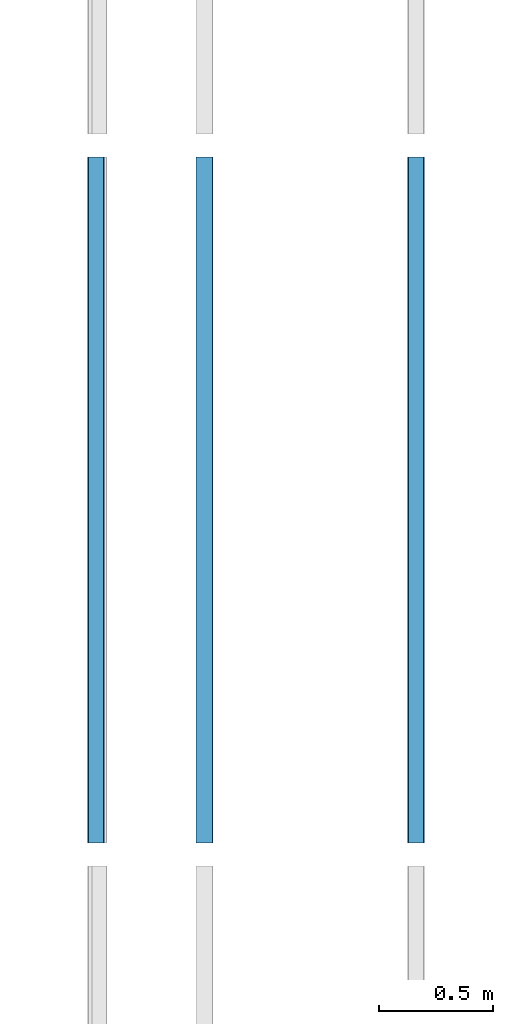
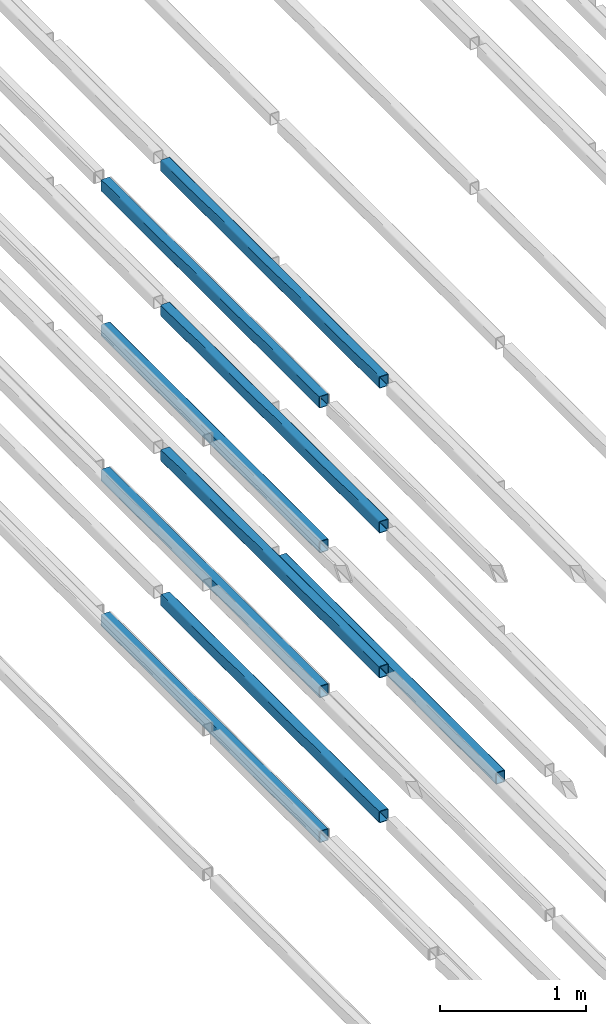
# One storey, part 47 of 290: 9 beams.
"""IFC2X3 building model written with IfcOpenShell, lengths in metres."""

import ifcopenshell
import ifcopenshell.guid

model = None  # the IFC model being written
_history = None  # IfcOwnerHistory: only IFC2X3 demands one
_inside = {}  # id of a spatial element -> (the spatial element, [elements in it])
_under = {}  # id of a project, library or spatial element -> (it, [spatial elements below it])
_declared = {}  # id of a project -> (the project, [libraries it declares])
_typed = {}  # id of a type object -> (the type object, [elements of that type])
_made_of = {}  # id of a material, layer set ... -> (it, [elements and type objects made of it])


def new_model(schema):
    """Start an empty IFC model of exactly this schema.

    Asked for "IFC4X3", IfcOpenShell would pick the latest addendum, in which some entities
    have other attributes; the version numbers below select the first issue.
    IFC2X3 requires an IfcOwnerHistory on every rooted entity: one is made here for all.
    """
    global model, _history
    if schema == "IFC4X3":
        model = ifcopenshell.file(schema_version=(4, 3, 0, 0))
    else:
        model = ifcopenshell.file(schema=schema)
    _inside.clear()
    _under.clear()
    _declared.clear()
    _typed.clear()
    _made_of.clear()
    _history = None
    if model.schema == "IFC2X3":
        org = make("IfcOrganization", Name="unknown")
        user = make(
            "IfcPersonAndOrganization",
            ThePerson=make("IfcPerson", FamilyName="unknown"),
            TheOrganization=org,
        )
        app = make(
            "IfcApplication",
            ApplicationDeveloper=org,
            Version="unknown",
            ApplicationFullName="unknown",
            ApplicationIdentifier="unknown",
        )
        _history = make(
            "IfcOwnerHistory",
            OwningUser=user,
            OwningApplication=app,
            ChangeAction="ADDED",
            CreationDate=0,
        )
    return model


def make(cls, **values):
    """One entity of the class cls with the attributes given. An attribute that is None is left unset."""
    return model.create_entity(
        cls, **{name: value for name, value in values.items() if value is not None}
    )


def entity(cls, *values):
    """Any entity or typed value of the class cls, its attributes in the order of the schema. None: left unset."""
    e = model.create_entity(cls)
    for i, value in enumerate(values):
        if value is not None:
            e[i] = value
    return e


def rooted(cls, **values):
    """An entity with a GlobalId (a new one), such as an element, a storey or a relation."""
    return make(cls, GlobalId=ifcopenshell.guid.new(), OwnerHistory=_history, **values)


def si_unit(unit_type, name, prefix=None):
    """IfcSIUnit, for example si_unit("LENGTHUNIT", "METRE", prefix="MILLI")."""
    return make("IfcSIUnit", UnitType=unit_type, Prefix=prefix, Name=name)


def converted_unit(unit_type, name, factor, base, dimensions=None, offset=None):
    """IfcConversionBasedUnit, such as the inch: factor (a typed value) times the base unit."""
    return make(
        "IfcConversionBasedUnit"
        if offset is None
        else "IfcConversionBasedUnitWithOffset",
        ConversionOffset=offset,
        Dimensions=None
        if dimensions is None
        else entity("IfcDimensionalExponents", *dimensions),
        UnitType=unit_type,
        Name=name,
        ConversionFactor=make(
            "IfcMeasureWithUnit", ValueComponent=factor, UnitComponent=base
        ),
    )


def derived_unit(unit_type, elements):
    """IfcDerivedUnit: a product of units, each with its exponent."""
    return make(
        "IfcDerivedUnit",
        Elements=[
            make("IfcDerivedUnitElement", Unit=unit, Exponent=power)
            for unit, power in elements
        ],
        UnitType=unit_type,
    )


def assignment(units):
    """IfcUnitAssignment: the units of a project."""
    return None if units is None else make("IfcUnitAssignment", Units=units)


def point(xyz):
    """IfcCartesianPoint."""
    return None if xyz is None else make("IfcCartesianPoint", Coordinates=xyz)


def direction(xyz):
    """IfcDirection."""
    return None if xyz is None else make("IfcDirection", DirectionRatios=xyz)


def frame(location, z_axis=None, x_axis=None):
    """IfcAxis2Placement3D, a coordinate frame: its origin and axes. An axis left out is left unset."""
    return make(
        "IfcAxis2Placement3D",
        Location=point(location),
        Axis=direction(z_axis),
        RefDirection=direction(x_axis),
    )


def frame_2d(location, x_axis=None):
    """IfcAxis2Placement2D, a coordinate frame in the plane: its origin and x axis."""
    return make(
        "IfcAxis2Placement2D", Location=point(location), RefDirection=direction(x_axis)
    )


def origin():
    """The frame at (0, 0, 0) with its axes left unset."""
    return frame((0.0, 0.0, 0.0))


def place(relative_to, where):
    """IfcLocalPlacement: puts the frame where relative to a parent placement (None: the world)."""
    return make(
        "IfcLocalPlacement", PlacementRelTo=relative_to, RelativePlacement=where
    )


def context(
    kind, dimensions, precision=None, world=None, true_north=None, identifier=None
):
    """IfcGeometricRepresentationContext, for example the 3D "Model" context."""
    return make(
        "IfcGeometricRepresentationContext",
        ContextIdentifier=identifier,
        ContextType=kind,
        CoordinateSpaceDimension=dimensions,
        Precision=precision,
        WorldCoordinateSystem=world,
        TrueNorth=true_north,
    )


def subcontext(parent, identifier, kind, view, scale=None):
    """IfcGeometricRepresentationSubContext, for example "Body" below "Model"."""
    return make(
        "IfcGeometricRepresentationSubContext",
        ContextIdentifier=identifier,
        ContextType=kind,
        ParentContext=parent,
        TargetScale=scale,
        TargetView=view,
    )


def project(units=None, contexts=None):
    """IfcProject with its units and contexts."""
    return rooted(
        "IfcProject",
        Name="project",
        RepresentationContexts=contexts,
        UnitsInContext=assignment(units),
    )


def spatial(cls, under=None, at=None, **own):
    """A site, building, storey or space (cls), placed at a placement, below another one or the project."""
    s = rooted(cls, ObjectPlacement=at, **own)
    if under is not None:
        _under.setdefault(under.id(), (under, []))[1].append(s)
    return s


def polyline(points):
    """IfcPolyline through the points."""
    return make("IfcPolyline", Points=[point(p) for p in points])


def circle_curve(where, radius):
    """IfcCircle in the frame where."""
    return make("IfcCircle", Position=where, Radius=radius)


def parameter(value):
    """IfcParameterValue: where a trimmed curve begins or ends, as a parameter of its basis curve."""
    return model.create_entity("IfcParameterValue", value)


def trimmed(basis, trim1, trim2, sense, master):
    """IfcTrimmedCurve: the piece of a basis curve between two trims."""
    return make(
        "IfcTrimmedCurve",
        BasisCurve=basis,
        Trim1=trim1,
        Trim2=trim2,
        SenseAgreement=sense,
        MasterRepresentation=master,
    )


def segment(curve, same_sense, transition):
    """IfcCompositeCurveSegment."""
    return make(
        "IfcCompositeCurveSegment",
        Transition=transition,
        SameSense=same_sense,
        ParentCurve=curve,
    )


def composite_curve(segments, self_intersect=None):
    """IfcCompositeCurve: segments joined end to end."""
    return make("IfcCompositeCurve", Segments=segments, SelfIntersect=self_intersect)


def outline(outer, holes=None, kind="AREA"):
    """IfcArbitraryClosedProfileDef: a profile drawn as a closed curve; with holes, ...WithVoids."""
    if holes is None:
        return make("IfcArbitraryClosedProfileDef", ProfileType=kind, OuterCurve=outer)
    return make(
        "IfcArbitraryProfileDefWithVoids",
        ProfileType=kind,
        OuterCurve=outer,
        InnerCurves=holes,
    )


def extrude(swept, where, along, depth):
    """IfcExtrudedAreaSolid: the profile swept, set in the frame where, extruded along a direction by depth."""
    return make(
        "IfcExtrudedAreaSolid",
        SweptArea=swept,
        Position=where,
        ExtrudedDirection=direction(along),
        Depth=depth,
    )


def shape(context_of_items, identifier, shape_type, items):
    """IfcShapeRepresentation: the items that make up one representation, for example the "Body"."""
    return make(
        "IfcShapeRepresentation",
        ContextOfItems=context_of_items,
        RepresentationIdentifier=identifier,
        RepresentationType=shape_type,
        Items=items,
    )


def material(Name=None, Category=None):
    """IfcMaterial."""
    return make("IfcMaterial", Name=Name, Category=Category)


def made_of(thing, what):
    """Note that an element or type object is made of a material, layer set ...; save() writes the relation."""
    if what is not None:
        _made_of.setdefault(what.id(), (what, []))[1].append(thing)
    return thing


def type_object(cls, material=None, **own):
    """A type object (cls), such as IfcWallType, which elements share."""
    return made_of(rooted(cls, **own), material)


def element(
    cls,
    number,
    at=None,
    inside=None,
    cuts=None,
    type_object=None,
    material=None,
    context=None,
    identifier="Body",
    shape_type=None,
    held_by="IfcProductDefinitionShape",
    body=None,
    shapes=None,
    **own,
):
    """One element of the class cls, such as IfcWall. Its Tag is "e" and its number.

    at: its placement. inside: the storey or other place that contains it. cuts: it is an
    opening in that element (IfcRelVoidsElement). A single representation is given by context,
    identifier, shape_type and body (its items); several are given by shapes. held_by: the class
    of the entity that holds the representations. save() writes the other relations.
    """
    e = rooted(cls, Tag="e%d" % number, ObjectPlacement=at, **own)
    if body is not None:
        shapes = [shape(context, identifier, shape_type, body)]
    if shapes is not None:
        e.Representation = make(held_by, Representations=shapes)
    if inside is not None:
        _inside.setdefault(inside.id(), (inside, []))[1].append(e)
    if cuts is not None:
        rooted(
            "IfcRelVoidsElement", RelatingBuildingElement=cuts, RelatedOpeningElement=e
        )
    if type_object is not None:
        _typed.setdefault(type_object.id(), (type_object, []))[1].append(e)
    return made_of(e, material)


def aggregate(whole, parts):
    """IfcRelAggregates: a whole, such as a stair, and the parts it consists of."""
    return rooted("IfcRelAggregates", RelatingObject=whole, RelatedObjects=parts)


def save(model, path):
    """Write the relations noted so far, then the file.

    IfcRelAggregates (storeys below a building ...), IfcRelContainedInSpatialStructure (elements
    in a storey), IfcRelDefinesByType, IfcRelAssociatesMaterial and IfcRelDeclares: one each for
    every whole, place, type object, material and project.
    """
    for whole, parts in _under.values():
        aggregate(whole, parts)
    for where, things in _inside.values():
        rooted(
            "IfcRelContainedInSpatialStructure",
            RelatedElements=things,
            RelatingStructure=where,
        )
    for kind, things in _typed.values():
        rooted("IfcRelDefinesByType", RelatedObjects=things, RelatingType=kind)
    for what, things in _made_of.values():
        rooted("IfcRelAssociatesMaterial", RelatedObjects=things, RelatingMaterial=what)
    for by, libraries in _declared.values():
        rooted("IfcRelDeclares", RelatingContext=by, RelatedDefinitions=libraries)
    model.write(path)


model = new_model("IFC2X3")

# Units and contexts
model_context = context("Model", 3, precision=1e-05, world=origin(), true_north=direction((6.12303176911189e-17, 1.0)))
body_context = subcontext(model_context, "Body", "Model", "MODEL_VIEW")
ifc_project = project(units=[si_unit("LENGTHUNIT", "METRE"), si_unit("AREAUNIT", "SQUARE_METRE"), si_unit("VOLUMEUNIT", "CUBIC_METRE"), converted_unit("PLANEANGLEUNIT", "DEGREE", entity("IfcRatioMeasure", 0.0174532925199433), si_unit("PLANEANGLEUNIT", "RADIAN"), dimensions=[0, 0, 0, 0, 0, 0, 0]), si_unit("MASSUNIT", "GRAM", prefix="KILO"), derived_unit("MASSDENSITYUNIT", [(si_unit("MASSUNIT", "GRAM", prefix="KILO"), 1), (si_unit("LENGTHUNIT", "METRE"), -3)]), derived_unit("MOMENTOFINERTIAUNIT", [(si_unit("LENGTHUNIT", "METRE"), 4)]), si_unit("TIMEUNIT", "SECOND"), si_unit("FREQUENCYUNIT", "HERTZ"), si_unit("THERMODYNAMICTEMPERATUREUNIT", "DEGREE_CELSIUS"), derived_unit("THERMALTRANSMITTANCEUNIT", [(si_unit("MASSUNIT", "GRAM", prefix="KILO"), 1), (si_unit("THERMODYNAMICTEMPERATUREUNIT", "KELVIN"), -1), (si_unit("TIMEUNIT", "SECOND"), -3)]), derived_unit("VOLUMETRICFLOWRATEUNIT", [(si_unit("LENGTHUNIT", "METRE"), 3), (si_unit("TIMEUNIT", "SECOND"), -1)]), si_unit("ELECTRICCURRENTUNIT", "AMPERE"), si_unit("ELECTRICVOLTAGEUNIT", "VOLT"), si_unit("POWERUNIT", "WATT"), si_unit("FORCEUNIT", "NEWTON", prefix="KILO"), si_unit("ILLUMINANCEUNIT", "LUX"), si_unit("LUMINOUSFLUXUNIT", "LUMEN"), si_unit("LUMINOUSINTENSITYUNIT", "CANDELA"), derived_unit("USERDEFINED", [(si_unit("MASSUNIT", "GRAM", prefix="KILO"), -1), (si_unit("LENGTHUNIT", "METRE"), -2), (si_unit("TIMEUNIT", "SECOND"), 3), (si_unit("LUMINOUSFLUXUNIT", "LUMEN"), 1)]), derived_unit("LINEARVELOCITYUNIT", [(si_unit("LENGTHUNIT", "METRE"), 1), (si_unit("TIMEUNIT", "SECOND"), -1)]), si_unit("PRESSUREUNIT", "PASCAL"), derived_unit("USERDEFINED", [(si_unit("LENGTHUNIT", "METRE"), -2), (si_unit("MASSUNIT", "GRAM", prefix="KILO"), 1), (si_unit("TIMEUNIT", "SECOND"), -2)]), derived_unit("LINEARFORCEUNIT", [(si_unit("MASSUNIT", "GRAM", prefix="KILO"), 1), (si_unit("LENGTHUNIT", "METRE"), 1), (si_unit("TIMEUNIT", "SECOND"), -2), (si_unit("LENGTHUNIT", "METRE"), -1)]), derived_unit("PLANARFORCEUNIT", [(si_unit("MASSUNIT", "GRAM", prefix="KILO"), 1), (si_unit("LENGTHUNIT", "METRE"), 1), (si_unit("TIMEUNIT", "SECOND"), -2), (si_unit("LENGTHUNIT", "METRE"), -2)])], contexts=[model_context])

# Site, building, storey
site_placement = place(None, origin())
site = spatial("IfcSite", under=ifc_project, at=site_placement, Name="Default", CompositionType="ELEMENT")
building_placement = place(site_placement, origin())
building = spatial("IfcBuilding", under=site, at=building_placement, CompositionType="ELEMENT")
storey_placement = place(building_placement, frame((0.0, 0.0, 4.0)))
storey = spatial("IfcBuildingStorey", under=building, at=storey_placement, Name="01_OG", CompositionType="ELEMENT", Elevation=4.0)

# Beams
ifc_material = material(Name="Metall - Baustahl S235 blau")
beam_type = type_object("IfcBeamType", Name="RHS Träger (EN 10219-2):RHS 100 x 75 x 5", PredefinedType="NOTDEFINED")
beam_1_placement = place(storey_placement, frame((-200.715111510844, 36.448088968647, -1.2), z_axis=(0.0, 0.0, 1.0), x_axis=(0.0, 1.0, 0.0)))
element("IfcBeam", 1, at=beam_1_placement, inside=storey, type_object=beam_type, material=ifc_material, Name="RHS Träger (EN 10219-2):RHS 100 x 75 x 5", ObjectType="RHS Träger (EN 10219-2):RHS 100 x 75 x 5", context=body_context, shape_type="SweptSolid", body=[
    extrude(outline(composite_curve([segment(trimmed(circle_curve(frame_2d((-0.0274999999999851, -0.0400000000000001), x_axis=(1.0, 0.0)), 0.01), [parameter(180.0)], [parameter(270.0)], True, "PARAMETER"), True, "CONTINUOUS"), segment(polyline([(-0.0274999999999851, -0.05), (0.0274999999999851, -0.05)]), True, "CONTINUOUS"), segment(trimmed(circle_curve(frame_2d((0.0274999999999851, -0.0400000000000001), x_axis=(1.0, 0.0)), 0.01), [parameter(270.0)], [parameter(5.08888749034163e-14)], True, "PARAMETER"), True, "CONTINUOUS"), segment(polyline([(0.0375000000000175, -0.0400000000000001), (0.0375000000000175, 0.0400000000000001)]), True, "CONTINUOUS"), segment(trimmed(circle_curve(frame_2d((0.0274999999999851, 0.0400000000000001), x_axis=(1.0, 0.0)), 0.01), [parameter(360.0)], [parameter(89.9999999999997)], True, "PARAMETER"), True, "CONTINUOUS"), segment(polyline([(0.0274999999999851, 0.05), (-0.0274999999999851, 0.05)]), True, "CONTINUOUS"), segment(trimmed(circle_curve(frame_2d((-0.0274999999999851, 0.0400000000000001), x_axis=(1.0, 0.0)), 0.01), [parameter(90.0000000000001)], [parameter(180.0)], True, "PARAMETER"), True, "CONTINUOUS"), segment(polyline([(-0.0374999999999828, 0.0400000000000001), (-0.0374999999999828, -0.0400000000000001)]), True, "CONTINUOUS")], self_intersect=False), holes=[composite_curve([segment(polyline([(0.0274999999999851, -0.0450000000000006), (-0.0274999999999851, -0.0450000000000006)]), True, "CONTINUOUS"), segment(trimmed(circle_curve(frame_2d((-0.0274999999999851, -0.0400000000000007), x_axis=(1.0, 0.0)), 0.005), [parameter(180.0)], [parameter(270.0)], True, "PARAMETER"), False, "CONTINUOUS"), segment(polyline([(-0.0325000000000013, -0.0400000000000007), (-0.0325000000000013, 0.039999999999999)]), True, "CONTINUOUS"), segment(trimmed(circle_curve(frame_2d((-0.0274999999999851, 0.039999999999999), x_axis=(1.0, 0.0)), 0.005), [parameter(90.0000000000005)], [parameter(180.0)], True, "PARAMETER"), False, "CONTINUOUS"), segment(polyline([(-0.0274999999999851, 0.044999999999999), (0.0274999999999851, 0.044999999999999)]), True, "CONTINUOUS"), segment(trimmed(circle_curve(frame_2d((0.0274999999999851, 0.039999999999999), x_axis=(1.0, 0.0)), 0.005), [parameter(0.0)], [parameter(90.0000000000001)], True, "PARAMETER"), False, "CONTINUOUS"), segment(polyline([(0.0325000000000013, 0.039999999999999), (0.0325000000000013, -0.0400000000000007)]), True, "CONTINUOUS"), segment(trimmed(circle_curve(frame_2d((0.0274999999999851, -0.0400000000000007), x_axis=(1.0, 0.0)), 0.005), [parameter(270.0)], [parameter(4.07110999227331e-13)], True, "PARAMETER"), False, "CONTINUOUS")], self_intersect=False)]), frame((9.99999999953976e-05, 0.0375000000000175, -0.0500000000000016), z_axis=(1.0, 0.0, 0.0), x_axis=(0.0, -1.0, 0.0)), (0.0, 0.0, 1.0), 2.9998),
])
beam_2_placement = place(storey_placement, frame((-200.715111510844, 36.448088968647, 0.0150000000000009), z_axis=(0.0, 0.0, 1.0), x_axis=(0.0, 1.0, 0.0)))
element("IfcBeam", 2, at=beam_2_placement, inside=storey, type_object=beam_type, material=ifc_material, Name="RHS Träger (EN 10219-2):RHS 100 x 75 x 5", ObjectType="RHS Träger (EN 10219-2):RHS 100 x 75 x 5", context=body_context, shape_type="SweptSolid", body=[
    extrude(outline(composite_curve([segment(trimmed(circle_curve(frame_2d((-0.0274999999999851, -0.0400000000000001), x_axis=(1.0, 0.0)), 0.01), [parameter(180.0)], [parameter(270.0)], True, "PARAMETER"), True, "CONTINUOUS"), segment(polyline([(-0.0274999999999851, -0.05), (0.0274999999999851, -0.05)]), True, "CONTINUOUS"), segment(trimmed(circle_curve(frame_2d((0.0274999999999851, -0.0400000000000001), x_axis=(1.0, 0.0)), 0.01), [parameter(270.0)], [parameter(5.08888749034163e-14)], True, "PARAMETER"), True, "CONTINUOUS"), segment(polyline([(0.0375000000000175, -0.0400000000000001), (0.0375000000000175, 0.0400000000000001)]), True, "CONTINUOUS"), segment(trimmed(circle_curve(frame_2d((0.0274999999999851, 0.0400000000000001), x_axis=(1.0, 0.0)), 0.01), [parameter(360.0)], [parameter(89.9999999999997)], True, "PARAMETER"), True, "CONTINUOUS"), segment(polyline([(0.0274999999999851, 0.05), (-0.0274999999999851, 0.05)]), True, "CONTINUOUS"), segment(trimmed(circle_curve(frame_2d((-0.0274999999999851, 0.0400000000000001), x_axis=(1.0, 0.0)), 0.01), [parameter(90.0000000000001)], [parameter(180.0)], True, "PARAMETER"), True, "CONTINUOUS"), segment(polyline([(-0.0374999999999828, 0.0400000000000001), (-0.0374999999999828, -0.0400000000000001)]), True, "CONTINUOUS")], self_intersect=False), holes=[composite_curve([segment(polyline([(0.0274999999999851, -0.0450000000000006), (-0.0274999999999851, -0.0450000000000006)]), True, "CONTINUOUS"), segment(trimmed(circle_curve(frame_2d((-0.0274999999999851, -0.0400000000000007), x_axis=(1.0, 0.0)), 0.005), [parameter(180.0)], [parameter(270.0)], True, "PARAMETER"), False, "CONTINUOUS"), segment(polyline([(-0.0325000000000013, -0.0400000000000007), (-0.0325000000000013, 0.039999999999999)]), True, "CONTINUOUS"), segment(trimmed(circle_curve(frame_2d((-0.0274999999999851, 0.039999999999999), x_axis=(1.0, 0.0)), 0.005), [parameter(90.0000000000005)], [parameter(180.0)], True, "PARAMETER"), False, "CONTINUOUS"), segment(polyline([(-0.0274999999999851, 0.044999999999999), (0.0274999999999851, 0.044999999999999)]), True, "CONTINUOUS"), segment(trimmed(circle_curve(frame_2d((0.0274999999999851, 0.039999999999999), x_axis=(1.0, 0.0)), 0.005), [parameter(0.0)], [parameter(90.0000000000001)], True, "PARAMETER"), False, "CONTINUOUS"), segment(polyline([(0.0325000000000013, 0.039999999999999), (0.0325000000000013, -0.0400000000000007)]), True, "CONTINUOUS"), segment(trimmed(circle_curve(frame_2d((0.0274999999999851, -0.0400000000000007), x_axis=(1.0, 0.0)), 0.005), [parameter(270.0)], [parameter(4.07110999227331e-13)], True, "PARAMETER"), False, "CONTINUOUS")], self_intersect=False)]), frame((9.9999999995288e-05, 0.0375000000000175, -0.0500000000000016), z_axis=(1.0, 0.0, 0.0), x_axis=(0.0, -1.0, 0.0)), (0.0, 0.0, 1.0), 2.9998),
])
beam_3_placement = place(storey_placement, frame((-200.715111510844, 36.448088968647, 1.23), z_axis=(0.0, 0.0, 1.0), x_axis=(0.0, 1.0, 0.0)))
element("IfcBeam", 3, at=beam_3_placement, inside=storey, type_object=beam_type, material=ifc_material, Name="RHS Träger (EN 10219-2):RHS 100 x 75 x 5", ObjectType="RHS Träger (EN 10219-2):RHS 100 x 75 x 5", context=body_context, shape_type="SweptSolid", body=[
    extrude(outline(composite_curve([segment(trimmed(circle_curve(frame_2d((-0.0274999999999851, -0.0399999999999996), x_axis=(1.0, 0.0)), 0.01), [parameter(180.0)], [parameter(270.0)], True, "PARAMETER"), True, "CONTINUOUS"), segment(polyline([(-0.0274999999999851, -0.0499999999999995), (0.0274999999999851, -0.0499999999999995)]), True, "CONTINUOUS"), segment(trimmed(circle_curve(frame_2d((0.0274999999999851, -0.0399999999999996), x_axis=(1.0, 0.0)), 0.01), [parameter(270.0)], [parameter(5.08888749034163e-14)], True, "PARAMETER"), True, "CONTINUOUS"), segment(polyline([(0.0375000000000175, -0.0399999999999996), (0.0375000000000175, 0.0399999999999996)]), True, "CONTINUOUS"), segment(trimmed(circle_curve(frame_2d((0.0274999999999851, 0.0399999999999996), x_axis=(1.0, 0.0)), 0.01), [parameter(360.0)], [parameter(89.9999999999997)], True, "PARAMETER"), True, "CONTINUOUS"), segment(polyline([(0.0274999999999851, 0.0500000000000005), (-0.0274999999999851, 0.0500000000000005)]), True, "CONTINUOUS"), segment(trimmed(circle_curve(frame_2d((-0.0274999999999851, 0.0399999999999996), x_axis=(1.0, 0.0)), 0.01), [parameter(90.0000000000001)], [parameter(180.0)], True, "PARAMETER"), True, "CONTINUOUS"), segment(polyline([(-0.0374999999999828, 0.0399999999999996), (-0.0374999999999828, -0.0399999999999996)]), True, "CONTINUOUS")], self_intersect=False), holes=[composite_curve([segment(polyline([(0.0274999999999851, -0.0450000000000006), (-0.0274999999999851, -0.0450000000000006)]), True, "CONTINUOUS"), segment(trimmed(circle_curve(frame_2d((-0.0274999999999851, -0.0400000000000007), x_axis=(1.0, 0.0)), 0.005), [parameter(180.0)], [parameter(270.0)], True, "PARAMETER"), False, "CONTINUOUS"), segment(polyline([(-0.0325000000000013, -0.0400000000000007), (-0.0325000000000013, 0.0399999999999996)]), True, "CONTINUOUS"), segment(trimmed(circle_curve(frame_2d((-0.0274999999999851, 0.0399999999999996), x_axis=(1.0, 0.0)), 0.005), [parameter(90.0000000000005)], [parameter(180.0)], True, "PARAMETER"), False, "CONTINUOUS"), segment(polyline([(-0.0274999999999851, 0.0449999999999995), (0.0274999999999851, 0.0449999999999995)]), True, "CONTINUOUS"), segment(trimmed(circle_curve(frame_2d((0.0274999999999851, 0.0399999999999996), x_axis=(1.0, 0.0)), 0.005), [parameter(0.0)], [parameter(90.0000000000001)], True, "PARAMETER"), False, "CONTINUOUS"), segment(polyline([(0.0325000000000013, 0.0399999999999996), (0.0325000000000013, -0.0400000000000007)]), True, "CONTINUOUS"), segment(trimmed(circle_curve(frame_2d((0.0274999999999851, -0.0400000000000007), x_axis=(1.0, 0.0)), 0.005), [parameter(270.0)], [parameter(4.07110999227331e-13)], True, "PARAMETER"), False, "CONTINUOUS")], self_intersect=False)]), frame((9.99999999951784e-05, 0.0375000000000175, -0.0500000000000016), z_axis=(1.0, 0.0, 0.0), x_axis=(0.0, -1.0, 0.0)), (0.0, 0.0, 1.0), 2.9998),
])
beam_4_placement = place(storey_placement, frame((-200.715111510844, 36.448088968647, 2.445), z_axis=(0.0, 0.0, 1.0), x_axis=(0.0, 1.0, 0.0)))
element("IfcBeam", 4, at=beam_4_placement, inside=storey, type_object=beam_type, material=ifc_material, Name="RHS Träger (EN 10219-2):RHS 100 x 75 x 5", ObjectType="RHS Träger (EN 10219-2):RHS 100 x 75 x 5", context=body_context, shape_type="SweptSolid", body=[
    extrude(outline(composite_curve([segment(trimmed(circle_curve(frame_2d((-0.0274999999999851, -0.0399999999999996), x_axis=(1.0, 0.0)), 0.01), [parameter(180.0)], [parameter(270.0)], True, "PARAMETER"), True, "CONTINUOUS"), segment(polyline([(-0.0274999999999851, -0.0499999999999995), (0.0274999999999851, -0.0499999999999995)]), True, "CONTINUOUS"), segment(trimmed(circle_curve(frame_2d((0.0274999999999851, -0.0399999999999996), x_axis=(1.0, 0.0)), 0.01), [parameter(270.0)], [parameter(5.08888749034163e-14)], True, "PARAMETER"), True, "CONTINUOUS"), segment(polyline([(0.0375000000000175, -0.0399999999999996), (0.0375000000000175, 0.0399999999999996)]), True, "CONTINUOUS"), segment(trimmed(circle_curve(frame_2d((0.0274999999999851, 0.0399999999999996), x_axis=(1.0, 0.0)), 0.01), [parameter(360.0)], [parameter(89.9999999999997)], True, "PARAMETER"), True, "CONTINUOUS"), segment(polyline([(0.0274999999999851, 0.0500000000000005), (-0.0274999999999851, 0.0500000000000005)]), True, "CONTINUOUS"), segment(trimmed(circle_curve(frame_2d((-0.0274999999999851, 0.0399999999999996), x_axis=(1.0, 0.0)), 0.01), [parameter(90.0000000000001)], [parameter(180.0)], True, "PARAMETER"), True, "CONTINUOUS"), segment(polyline([(-0.0374999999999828, 0.0399999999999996), (-0.0374999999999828, -0.0399999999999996)]), True, "CONTINUOUS")], self_intersect=False), holes=[composite_curve([segment(polyline([(0.0274999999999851, -0.0450000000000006), (-0.0274999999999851, -0.0450000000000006)]), True, "CONTINUOUS"), segment(trimmed(circle_curve(frame_2d((-0.0274999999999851, -0.0400000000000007), x_axis=(1.0, 0.0)), 0.005), [parameter(180.0)], [parameter(270.0)], True, "PARAMETER"), False, "CONTINUOUS"), segment(polyline([(-0.0325000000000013, -0.0400000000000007), (-0.0325000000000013, 0.0399999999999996)]), True, "CONTINUOUS"), segment(trimmed(circle_curve(frame_2d((-0.0274999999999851, 0.0399999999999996), x_axis=(1.0, 0.0)), 0.005), [parameter(90.0000000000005)], [parameter(180.0)], True, "PARAMETER"), False, "CONTINUOUS"), segment(polyline([(-0.0274999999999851, 0.0449999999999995), (0.0274999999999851, 0.0449999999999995)]), True, "CONTINUOUS"), segment(trimmed(circle_curve(frame_2d((0.0274999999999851, 0.0399999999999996), x_axis=(1.0, 0.0)), 0.005), [parameter(0.0)], [parameter(90.0000000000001)], True, "PARAMETER"), False, "CONTINUOUS"), segment(polyline([(0.0325000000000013, 0.0399999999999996), (0.0325000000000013, -0.0400000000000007)]), True, "CONTINUOUS"), segment(trimmed(circle_curve(frame_2d((0.0274999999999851, -0.0400000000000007), x_axis=(1.0, 0.0)), 0.005), [parameter(270.0)], [parameter(4.07110999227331e-13)], True, "PARAMETER"), False, "CONTINUOUS")], self_intersect=False)]), frame((9.99999999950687e-05, 0.0375000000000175, -0.0500000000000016), z_axis=(1.0, 0.0, 0.0), x_axis=(0.0, -1.0, 0.0)), (0.0, 0.0, 1.0), 2.9998),
])
beam_5_placement = place(storey_placement, frame((-199.865111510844, 36.448088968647, -1.2), z_axis=(0.0, 0.0, 1.0), x_axis=(0.0, 1.0, 0.0)))
element("IfcBeam", 5, at=beam_5_placement, inside=storey, type_object=beam_type, material=ifc_material, Name="RHS Träger (EN 10219-2):RHS 100 x 75 x 5", ObjectType="RHS Träger (EN 10219-2):RHS 100 x 75 x 5", context=body_context, shape_type="SweptSolid", body=[
    extrude(outline(composite_curve([segment(polyline([(-0.0400000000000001, -0.0374999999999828), (0.0400000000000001, -0.0374999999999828)]), True, "CONTINUOUS"), segment(trimmed(circle_curve(frame_2d((0.0400000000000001, -0.0274999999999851), x_axis=(0.0, 1.0)), 0.01), [parameter(180.0)], [parameter(270.0)], True, "PARAMETER"), True, "CONTINUOUS"), segment(polyline([(0.05, -0.0274999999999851), (0.05, 0.0274999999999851)]), True, "CONTINUOUS"), segment(trimmed(circle_curve(frame_2d((0.0400000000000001, 0.0274999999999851), x_axis=(0.0, 1.0)), 0.01), [parameter(270.0)], [parameter(4.07110999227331e-13)], True, "PARAMETER"), True, "CONTINUOUS"), segment(polyline([(0.0400000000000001, 0.0375000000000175), (-0.0400000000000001, 0.0375000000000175)]), True, "CONTINUOUS"), segment(trimmed(circle_curve(frame_2d((-0.0400000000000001, 0.0274999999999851), x_axis=(0.0, 1.0)), 0.01), [parameter(360.0)], [parameter(90.0000000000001)], True, "PARAMETER"), True, "CONTINUOUS"), segment(polyline([(-0.05, 0.0274999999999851), (-0.05, -0.0274999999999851)]), True, "CONTINUOUS"), segment(trimmed(circle_curve(frame_2d((-0.0400000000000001, -0.0274999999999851), x_axis=(0.0, 1.0)), 0.01), [parameter(90.0000000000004)], [parameter(180.0)], True, "PARAMETER"), True, "CONTINUOUS")], self_intersect=False), holes=[composite_curve([segment(trimmed(circle_curve(frame_2d((-0.0400000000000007, 0.0274999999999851), x_axis=(0.0, 1.0)), 0.005), [parameter(360.0)], [parameter(89.9999999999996)], True, "PARAMETER"), False, "CONTINUOUS"), segment(polyline([(-0.0400000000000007, 0.0325000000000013), (0.039999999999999, 0.0325000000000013)]), True, "CONTINUOUS"), segment(trimmed(circle_curve(frame_2d((0.039999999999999, 0.0274999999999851), x_axis=(0.0, 1.0)), 0.005), [parameter(270.0)], [parameter(0.0)], True, "PARAMETER"), False, "CONTINUOUS"), segment(polyline([(0.044999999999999, 0.0274999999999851), (0.044999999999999, -0.0274999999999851)]), True, "CONTINUOUS"), segment(trimmed(circle_curve(frame_2d((0.039999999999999, -0.0274999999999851), x_axis=(0.0, 1.0)), 0.005), [parameter(180.0)], [parameter(269.999999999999)], True, "PARAMETER"), False, "CONTINUOUS"), segment(polyline([(0.039999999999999, -0.0325000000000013), (-0.0400000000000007, -0.0325000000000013)]), True, "CONTINUOUS"), segment(trimmed(circle_curve(frame_2d((-0.0400000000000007, -0.0274999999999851), x_axis=(0.0, 1.0)), 0.005), [parameter(90.0000000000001)], [parameter(180.0)], True, "PARAMETER"), False, "CONTINUOUS"), segment(polyline([(-0.0450000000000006, -0.0274999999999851), (-0.0450000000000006, 0.0274999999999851)]), True, "CONTINUOUS")], self_intersect=False)]), frame((9.99999999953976e-05, -0.0375000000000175, -0.0500000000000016), z_axis=(1.0, 0.0, 0.0), x_axis=(0.0, 0.0, -1.0)), (0.0, 0.0, 1.0), 2.9998),
])
beam_6_placement = place(storey_placement, frame((-201.265111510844, 36.448088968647, -1.2), z_axis=(0.0, 0.0, 1.0), x_axis=(0.0, 1.0, 0.0)))
element("IfcBeam", 6, at=beam_6_placement, inside=storey, type_object=beam_type, material=ifc_material, Name="RHS Träger (EN 10219-2):RHS 100 x 75 x 5", ObjectType="RHS Träger (EN 10219-2):RHS 100 x 75 x 5", context=body_context, shape_type="SweptSolid", body=[
    extrude(outline(composite_curve([segment(polyline([(-0.0400000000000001, -0.0374999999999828), (0.0400000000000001, -0.0374999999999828)]), True, "CONTINUOUS"), segment(trimmed(circle_curve(frame_2d((0.0400000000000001, -0.0274999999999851), x_axis=(0.0, 1.0)), 0.01), [parameter(180.0)], [parameter(270.0)], True, "PARAMETER"), True, "CONTINUOUS"), segment(polyline([(0.05, -0.0274999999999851), (0.05, 0.0274999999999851)]), True, "CONTINUOUS"), segment(trimmed(circle_curve(frame_2d((0.0400000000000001, 0.0274999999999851), x_axis=(0.0, 1.0)), 0.01), [parameter(270.0)], [parameter(4.07110999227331e-13)], True, "PARAMETER"), True, "CONTINUOUS"), segment(polyline([(0.0400000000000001, 0.0375000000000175), (-0.0400000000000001, 0.0375000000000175)]), True, "CONTINUOUS"), segment(trimmed(circle_curve(frame_2d((-0.0400000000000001, 0.0274999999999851), x_axis=(0.0, 1.0)), 0.01), [parameter(360.0)], [parameter(90.0000000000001)], True, "PARAMETER"), True, "CONTINUOUS"), segment(polyline([(-0.05, 0.0274999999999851), (-0.05, -0.0274999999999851)]), True, "CONTINUOUS"), segment(trimmed(circle_curve(frame_2d((-0.0400000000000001, -0.0274999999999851), x_axis=(0.0, 1.0)), 0.01), [parameter(90.0000000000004)], [parameter(180.0)], True, "PARAMETER"), True, "CONTINUOUS")], self_intersect=False), holes=[composite_curve([segment(trimmed(circle_curve(frame_2d((-0.0400000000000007, 0.0274999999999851), x_axis=(0.0, 1.0)), 0.005), [parameter(360.0)], [parameter(89.9999999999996)], True, "PARAMETER"), False, "CONTINUOUS"), segment(polyline([(-0.0400000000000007, 0.0325000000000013), (0.039999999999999, 0.0325000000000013)]), True, "CONTINUOUS"), segment(trimmed(circle_curve(frame_2d((0.039999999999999, 0.0274999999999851), x_axis=(0.0, 1.0)), 0.005), [parameter(270.0)], [parameter(0.0)], True, "PARAMETER"), False, "CONTINUOUS"), segment(polyline([(0.044999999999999, 0.0274999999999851), (0.044999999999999, -0.0274999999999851)]), True, "CONTINUOUS"), segment(trimmed(circle_curve(frame_2d((0.039999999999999, -0.0274999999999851), x_axis=(0.0, 1.0)), 0.005), [parameter(180.0)], [parameter(269.999999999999)], True, "PARAMETER"), False, "CONTINUOUS"), segment(polyline([(0.039999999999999, -0.0325000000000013), (-0.0400000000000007, -0.0325000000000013)]), True, "CONTINUOUS"), segment(trimmed(circle_curve(frame_2d((-0.0400000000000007, -0.0274999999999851), x_axis=(0.0, 1.0)), 0.005), [parameter(90.0000000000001)], [parameter(180.0)], True, "PARAMETER"), False, "CONTINUOUS"), segment(polyline([(-0.0450000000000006, -0.0274999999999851), (-0.0450000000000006, 0.0274999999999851)]), True, "CONTINUOUS")], self_intersect=False)]), frame((9.99999999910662e-05, -0.0375000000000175, -0.0500000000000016), z_axis=(1.0, 0.0, 0.0), x_axis=(0.0, 0.0, -1.0)), (0.0, 0.0, 1.0), 2.9998),
])
beam_7_placement = place(storey_placement, frame((-201.265111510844, 36.448088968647, 0.0150000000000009), z_axis=(0.0, 0.0, 1.0), x_axis=(0.0, 1.0, 0.0)))
element("IfcBeam", 7, at=beam_7_placement, inside=storey, type_object=beam_type, material=ifc_material, Name="RHS Träger (EN 10219-2):RHS 100 x 75 x 5", ObjectType="RHS Träger (EN 10219-2):RHS 100 x 75 x 5", context=body_context, shape_type="SweptSolid", body=[
    extrude(outline(composite_curve([segment(polyline([(-0.0400000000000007, -0.0374999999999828), (0.0399999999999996, -0.0374999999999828)]), True, "CONTINUOUS"), segment(trimmed(circle_curve(frame_2d((0.0399999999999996, -0.0274999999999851), x_axis=(0.0, 1.0)), 0.01), [parameter(180.0)], [parameter(270.0)], True, "PARAMETER"), True, "CONTINUOUS"), segment(polyline([(0.0499999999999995, -0.0274999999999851), (0.0499999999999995, 0.0274999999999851)]), True, "CONTINUOUS"), segment(trimmed(circle_curve(frame_2d((0.0399999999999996, 0.0274999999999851), x_axis=(0.0, 1.0)), 0.01), [parameter(270.0)], [parameter(4.07110999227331e-13)], True, "PARAMETER"), True, "CONTINUOUS"), segment(polyline([(0.0399999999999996, 0.0375000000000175), (-0.0400000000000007, 0.0375000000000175)]), True, "CONTINUOUS"), segment(trimmed(circle_curve(frame_2d((-0.0400000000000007, 0.0274999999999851), x_axis=(0.0, 1.0)), 0.01), [parameter(360.0)], [parameter(90.0000000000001)], True, "PARAMETER"), True, "CONTINUOUS"), segment(polyline([(-0.0500000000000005, 0.0274999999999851), (-0.0500000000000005, -0.0274999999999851)]), True, "CONTINUOUS"), segment(trimmed(circle_curve(frame_2d((-0.0400000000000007, -0.0274999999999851), x_axis=(0.0, 1.0)), 0.01), [parameter(90.0000000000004)], [parameter(180.0)], True, "PARAMETER"), True, "CONTINUOUS")], self_intersect=False), holes=[composite_curve([segment(trimmed(circle_curve(frame_2d((-0.0400000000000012, 0.0274999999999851), x_axis=(0.0, 1.0)), 0.005), [parameter(360.0)], [parameter(89.9999999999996)], True, "PARAMETER"), False, "CONTINUOUS"), segment(polyline([(-0.0400000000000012, 0.0325000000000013), (0.0399999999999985, 0.0325000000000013)]), True, "CONTINUOUS"), segment(trimmed(circle_curve(frame_2d((0.0399999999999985, 0.0274999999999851), x_axis=(0.0, 1.0)), 0.005), [parameter(270.0)], [parameter(0.0)], True, "PARAMETER"), False, "CONTINUOUS"), segment(polyline([(0.0449999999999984, 0.0274999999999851), (0.0449999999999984, -0.0274999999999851)]), True, "CONTINUOUS"), segment(trimmed(circle_curve(frame_2d((0.0399999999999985, -0.0274999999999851), x_axis=(0.0, 1.0)), 0.005), [parameter(180.0)], [parameter(269.999999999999)], True, "PARAMETER"), False, "CONTINUOUS"), segment(polyline([(0.0399999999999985, -0.0325000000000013), (-0.0400000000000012, -0.0325000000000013)]), True, "CONTINUOUS"), segment(trimmed(circle_curve(frame_2d((-0.0400000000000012, -0.0274999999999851), x_axis=(0.0, 1.0)), 0.005), [parameter(90.0000000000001)], [parameter(180.0)], True, "PARAMETER"), False, "CONTINUOUS"), segment(polyline([(-0.0450000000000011, -0.0274999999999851), (-0.0450000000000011, 0.0274999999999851)]), True, "CONTINUOUS")], self_intersect=False)]), frame((9.99999999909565e-05, -0.0375000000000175, -0.0500000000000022), z_axis=(1.0, 0.0, 0.0), x_axis=(0.0, 0.0, -1.0)), (0.0, 0.0, 1.0), 2.9998),
])
beam_8_placement = place(storey_placement, frame((-201.265111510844, 36.448088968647, 1.23), z_axis=(0.0, 0.0, 1.0), x_axis=(0.0, 1.0, 0.0)))
element("IfcBeam", 8, at=beam_8_placement, inside=storey, type_object=beam_type, material=ifc_material, Name="RHS Träger (EN 10219-2):RHS 100 x 75 x 5", ObjectType="RHS Träger (EN 10219-2):RHS 100 x 75 x 5", context=body_context, shape_type="SweptSolid", body=[
    extrude(outline(composite_curve([segment(polyline([(-0.0399999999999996, -0.0374999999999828), (0.0399999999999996, -0.0374999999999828)]), True, "CONTINUOUS"), segment(trimmed(circle_curve(frame_2d((0.0399999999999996, -0.0274999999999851), x_axis=(0.0, 1.0)), 0.01), [parameter(180.0)], [parameter(270.0)], True, "PARAMETER"), True, "CONTINUOUS"), segment(polyline([(0.0500000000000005, -0.0274999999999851), (0.0500000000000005, 0.0274999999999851)]), True, "CONTINUOUS"), segment(trimmed(circle_curve(frame_2d((0.0399999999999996, 0.0274999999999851), x_axis=(0.0, 1.0)), 0.01), [parameter(270.0)], [parameter(4.07110999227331e-13)], True, "PARAMETER"), True, "CONTINUOUS"), segment(polyline([(0.0399999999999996, 0.0375000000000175), (-0.0399999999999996, 0.0375000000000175)]), True, "CONTINUOUS"), segment(trimmed(circle_curve(frame_2d((-0.0399999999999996, 0.0274999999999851), x_axis=(0.0, 1.0)), 0.01), [parameter(360.0)], [parameter(90.0000000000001)], True, "PARAMETER"), True, "CONTINUOUS"), segment(polyline([(-0.0499999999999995, 0.0274999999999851), (-0.0499999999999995, -0.0274999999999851)]), True, "CONTINUOUS"), segment(trimmed(circle_curve(frame_2d((-0.0399999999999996, -0.0274999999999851), x_axis=(0.0, 1.0)), 0.01), [parameter(90.0000000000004)], [parameter(180.0)], True, "PARAMETER"), True, "CONTINUOUS")], self_intersect=False), holes=[composite_curve([segment(trimmed(circle_curve(frame_2d((-0.0400000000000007, 0.0274999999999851), x_axis=(0.0, 1.0)), 0.005), [parameter(360.0)], [parameter(89.9999999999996)], True, "PARAMETER"), False, "CONTINUOUS"), segment(polyline([(-0.0400000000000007, 0.0325000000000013), (0.0399999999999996, 0.0325000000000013)]), True, "CONTINUOUS"), segment(trimmed(circle_curve(frame_2d((0.0399999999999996, 0.0274999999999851), x_axis=(0.0, 1.0)), 0.005), [parameter(270.0)], [parameter(0.0)], True, "PARAMETER"), False, "CONTINUOUS"), segment(polyline([(0.0449999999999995, 0.0274999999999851), (0.0449999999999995, -0.0274999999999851)]), True, "CONTINUOUS"), segment(trimmed(circle_curve(frame_2d((0.0399999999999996, -0.0274999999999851), x_axis=(0.0, 1.0)), 0.005), [parameter(180.0)], [parameter(269.999999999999)], True, "PARAMETER"), False, "CONTINUOUS"), segment(polyline([(0.0399999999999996, -0.0325000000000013), (-0.0400000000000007, -0.0325000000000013)]), True, "CONTINUOUS"), segment(trimmed(circle_curve(frame_2d((-0.0400000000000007, -0.0274999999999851), x_axis=(0.0, 1.0)), 0.005), [parameter(90.0000000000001)], [parameter(180.0)], True, "PARAMETER"), False, "CONTINUOUS"), segment(polyline([(-0.0450000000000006, -0.0274999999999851), (-0.0450000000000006, 0.0274999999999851)]), True, "CONTINUOUS")], self_intersect=False)]), frame((9.99999999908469e-05, -0.0375000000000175, -0.0500000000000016), z_axis=(1.0, 0.0, 0.0), x_axis=(0.0, 0.0, -1.0)), (0.0, 0.0, 1.0), 2.9998),
])
beam_9_placement = place(storey_placement, frame((-201.265111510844, 36.448088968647, 2.445), z_axis=(0.0, 0.0, 1.0), x_axis=(0.0, 1.0, 0.0)))
element("IfcBeam", 9, at=beam_9_placement, inside=storey, type_object=beam_type, material=ifc_material, Name="RHS Träger (EN 10219-2):RHS 100 x 75 x 5", ObjectType="RHS Träger (EN 10219-2):RHS 100 x 75 x 5", context=body_context, shape_type="SweptSolid", body=[
    extrude(outline(composite_curve([segment(polyline([(-0.0399999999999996, -0.0374999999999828), (0.0399999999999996, -0.0374999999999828)]), True, "CONTINUOUS"), segment(trimmed(circle_curve(frame_2d((0.0399999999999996, -0.0274999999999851), x_axis=(0.0, 1.0)), 0.01), [parameter(180.0)], [parameter(270.0)], True, "PARAMETER"), True, "CONTINUOUS"), segment(polyline([(0.0500000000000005, -0.0274999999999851), (0.0500000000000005, 0.0274999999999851)]), True, "CONTINUOUS"), segment(trimmed(circle_curve(frame_2d((0.0399999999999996, 0.0274999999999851), x_axis=(0.0, 1.0)), 0.01), [parameter(270.0)], [parameter(4.07110999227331e-13)], True, "PARAMETER"), True, "CONTINUOUS"), segment(polyline([(0.0399999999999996, 0.0375000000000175), (-0.0399999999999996, 0.0375000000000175)]), True, "CONTINUOUS"), segment(trimmed(circle_curve(frame_2d((-0.0399999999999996, 0.0274999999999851), x_axis=(0.0, 1.0)), 0.01), [parameter(360.0)], [parameter(90.0000000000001)], True, "PARAMETER"), True, "CONTINUOUS"), segment(polyline([(-0.0499999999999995, 0.0274999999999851), (-0.0499999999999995, -0.0274999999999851)]), True, "CONTINUOUS"), segment(trimmed(circle_curve(frame_2d((-0.0399999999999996, -0.0274999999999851), x_axis=(0.0, 1.0)), 0.01), [parameter(90.0000000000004)], [parameter(180.0)], True, "PARAMETER"), True, "CONTINUOUS")], self_intersect=False), holes=[composite_curve([segment(trimmed(circle_curve(frame_2d((-0.0400000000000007, 0.0274999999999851), x_axis=(0.0, 1.0)), 0.005), [parameter(360.0)], [parameter(89.9999999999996)], True, "PARAMETER"), False, "CONTINUOUS"), segment(polyline([(-0.0400000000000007, 0.0325000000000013), (0.0399999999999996, 0.0325000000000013)]), True, "CONTINUOUS"), segment(trimmed(circle_curve(frame_2d((0.0399999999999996, 0.0274999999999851), x_axis=(0.0, 1.0)), 0.005), [parameter(270.0)], [parameter(0.0)], True, "PARAMETER"), False, "CONTINUOUS"), segment(polyline([(0.0449999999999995, 0.0274999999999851), (0.0449999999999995, -0.0274999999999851)]), True, "CONTINUOUS"), segment(trimmed(circle_curve(frame_2d((0.0399999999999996, -0.0274999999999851), x_axis=(0.0, 1.0)), 0.005), [parameter(180.0)], [parameter(269.999999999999)], True, "PARAMETER"), False, "CONTINUOUS"), segment(polyline([(0.0399999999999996, -0.0325000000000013), (-0.0400000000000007, -0.0325000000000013)]), True, "CONTINUOUS"), segment(trimmed(circle_curve(frame_2d((-0.0400000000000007, -0.0274999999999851), x_axis=(0.0, 1.0)), 0.005), [parameter(90.0000000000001)], [parameter(180.0)], True, "PARAMETER"), False, "CONTINUOUS"), segment(polyline([(-0.0450000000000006, -0.0274999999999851), (-0.0450000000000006, 0.0274999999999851)]), True, "CONTINUOUS")], self_intersect=False)]), frame((9.99999999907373e-05, -0.0375000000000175, -0.0500000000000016), z_axis=(1.0, 0.0, 0.0), x_axis=(0.0, 0.0, -1.0)), (0.0, 0.0, 1.0), 2.9998),
])

save(model, "model.ifc")
